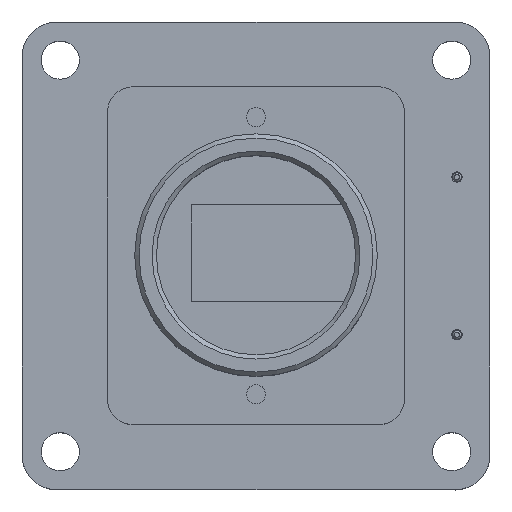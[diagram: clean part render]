
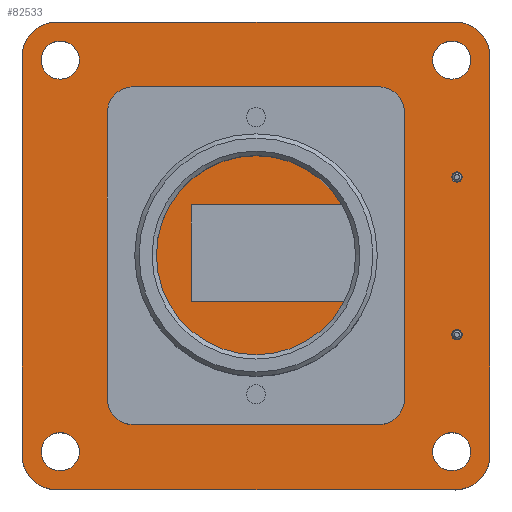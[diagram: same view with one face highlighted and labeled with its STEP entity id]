
A CAD part, top view. The second image highlights one B-rep face of the part: STEP entity #82533.
In plain terms, the highlighted planar face has unit normal (0, 0, 1) as drawn and (0, 1, 0) by its records, which use the part's own axes.
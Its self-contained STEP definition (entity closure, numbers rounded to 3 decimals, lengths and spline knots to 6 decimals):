
#6889=LINE('',#132260,#16607);
#6892=LINE('',#132266,#16610);
#6894=LINE('',#132270,#16612);
#6896=LINE('',#132274,#16614);
#6897=LINE('',#132276,#16615);
#6902=LINE('',#132291,#16620);
#6906=LINE('',#132303,#16624);
#6910=LINE('',#132315,#16628);
#16607=VECTOR('',#108251,1.);
#16610=VECTOR('',#108256,1.);
#16612=VECTOR('',#108260,1.);
#16614=VECTOR('',#108264,1.);
#16615=VECTOR('',#108267,1.);
#16620=VECTOR('',#108280,1.);
#16624=VECTOR('',#108292,1.);
#16628=VECTOR('',#108304,1.);
#22431=PLANE('',#90638);
#39983=ORIENTED_EDGE('',*,*,#55817,.F.);
#39984=ORIENTED_EDGE('',*,*,#55818,.F.);
#39985=ORIENTED_EDGE('',*,*,#55819,.F.);
#39986=ORIENTED_EDGE('',*,*,#55820,.F.);
#39987=ORIENTED_EDGE('',*,*,#55805,.T.);
#39988=ORIENTED_EDGE('',*,*,#55783,.T.);
#39989=ORIENTED_EDGE('',*,*,#55787,.T.);
#39990=ORIENTED_EDGE('',*,*,#55790,.T.);
#39991=ORIENTED_EDGE('',*,*,#55793,.T.);
#39992=ORIENTED_EDGE('',*,*,#55796,.T.);
#39993=ORIENTED_EDGE('',*,*,#55799,.T.);
#39994=ORIENTED_EDGE('',*,*,#55802,.T.);
#39995=ORIENTED_EDGE('',*,*,#55821,.F.);
#39996=ORIENTED_EDGE('',*,*,#55822,.F.);
#39997=ORIENTED_EDGE('',*,*,#55780,.F.);
#39998=ORIENTED_EDGE('',*,*,#55782,.F.);
#39999=ORIENTED_EDGE('',*,*,#55775,.F.);
#40000=ORIENTED_EDGE('',*,*,#55778,.F.);
#40001=ORIENTED_EDGE('',*,*,#55823,.F.);
#40002=ORIENTED_EDGE('',*,*,#55824,.F.);
#40003=ORIENTED_EDGE('',*,*,#55825,.F.);
#40004=ORIENTED_EDGE('',*,*,#55826,.F.);
#55775=EDGE_CURVE('',#65050,#65051,#6889,.T.);
#55778=EDGE_CURVE('',#65052,#65050,#6892,.T.);
#55780=EDGE_CURVE('',#65053,#65052,#6894,.T.);
#55782=EDGE_CURVE('',#65051,#65053,#6896,.T.);
#55783=EDGE_CURVE('',#65054,#65055,#6897,.T.);
#55787=EDGE_CURVE('',#65055,#65058,#69207,.T.);
#55790=EDGE_CURVE('',#65058,#65060,#6902,.T.);
#55793=EDGE_CURVE('',#65060,#65062,#69209,.T.);
#55796=EDGE_CURVE('',#65062,#65064,#6906,.T.);
#55799=EDGE_CURVE('',#65064,#65066,#69211,.T.);
#55802=EDGE_CURVE('',#65066,#65068,#6910,.T.);
#55805=EDGE_CURVE('',#65068,#65054,#69213,.T.);
#55817=EDGE_CURVE('',#65080,#65080,#69225,.T.);
#55818=EDGE_CURVE('',#65081,#65081,#69226,.T.);
#55819=EDGE_CURVE('',#65082,#65082,#69227,.T.);
#55820=EDGE_CURVE('',#65083,#65083,#69228,.T.);
#55821=EDGE_CURVE('',#65084,#65084,#69229,.T.);
#55822=EDGE_CURVE('',#65085,#65085,#69230,.T.);
#55823=EDGE_CURVE('',#65086,#65086,#69231,.T.);
#55824=EDGE_CURVE('',#65087,#65087,#69232,.T.);
#55825=EDGE_CURVE('',#65088,#65088,#69233,.T.);
#55826=EDGE_CURVE('',#65089,#65089,#69234,.T.);
#65050=VERTEX_POINT('',#132261);
#65051=VERTEX_POINT('',#132262);
#65052=VERTEX_POINT('',#132267);
#65053=VERTEX_POINT('',#132271);
#65054=VERTEX_POINT('',#132277);
#65055=VERTEX_POINT('',#132278);
#65058=VERTEX_POINT('',#132286);
#65060=VERTEX_POINT('',#132292);
#65062=VERTEX_POINT('',#132298);
#65064=VERTEX_POINT('',#132304);
#65066=VERTEX_POINT('',#132310);
#65068=VERTEX_POINT('',#132316);
#65080=VERTEX_POINT('',#132346);
#65081=VERTEX_POINT('',#132348);
#65082=VERTEX_POINT('',#132350);
#65083=VERTEX_POINT('',#132352);
#65084=VERTEX_POINT('',#132354);
#65085=VERTEX_POINT('',#132356);
#65086=VERTEX_POINT('',#132358);
#65087=VERTEX_POINT('',#132360);
#65088=VERTEX_POINT('',#132362);
#65089=VERTEX_POINT('',#132364);
#69207=CIRCLE('',#90613,0.002);
#69209=CIRCLE('',#90617,0.002);
#69211=CIRCLE('',#90621,0.002);
#69213=CIRCLE('',#90625,0.002);
#69225=CIRCLE('',#90639,0.0011);
#69226=CIRCLE('',#90640,0.0011);
#69227=CIRCLE('',#90641,0.0011);
#69228=CIRCLE('',#90642,0.0011);
#69229=CIRCLE('',#90643,0.0003);
#69230=CIRCLE('',#90644,0.0003);
#69231=CIRCLE('',#90645,0.000525);
#69232=CIRCLE('',#90646,0.000525);
#69233=CIRCLE('',#90647,0.00075);
#69234=CIRCLE('',#90648,0.00075);
#72812=EDGE_LOOP('',(#39983));
#72813=EDGE_LOOP('',(#39984));
#72814=EDGE_LOOP('',(#39985));
#72815=EDGE_LOOP('',(#39986));
#72816=EDGE_LOOP('',(#39987,#39988,#39989,#39990,#39991,#39992,#39993,#39994));
#72817=EDGE_LOOP('',(#39995));
#72818=EDGE_LOOP('',(#39996));
#72819=EDGE_LOOP('',(#39997,#39998,#39999,#40000));
#72820=EDGE_LOOP('',(#40001));
#72821=EDGE_LOOP('',(#40002));
#72822=EDGE_LOOP('',(#40003));
#72823=EDGE_LOOP('',(#40004));
#77203=FACE_BOUND('',#72812,.T.);
#77204=FACE_BOUND('',#72813,.T.);
#77205=FACE_BOUND('',#72814,.T.);
#77206=FACE_BOUND('',#72815,.T.);
#77207=FACE_BOUND('',#72816,.T.);
#77208=FACE_BOUND('',#72817,.T.);
#77209=FACE_BOUND('',#72818,.T.);
#77210=FACE_BOUND('',#72819,.T.);
#77211=FACE_BOUND('',#72820,.T.);
#77212=FACE_BOUND('',#72821,.T.);
#77213=FACE_BOUND('',#72822,.T.);
#77214=FACE_BOUND('',#72823,.T.);
#82533=ADVANCED_FACE('',(#77203,#77204,#77205,#77206,#77207,#77208,#77209,
#77210,#77211,#77212,#77213,#77214),#22431,.T.);
#90613=AXIS2_PLACEMENT_3D('',#132285,#108273,#108274);
#90617=AXIS2_PLACEMENT_3D('',#132297,#108285,#108286);
#90621=AXIS2_PLACEMENT_3D('',#132309,#108297,#108298);
#90625=AXIS2_PLACEMENT_3D('',#132321,#108309,#108310);
#90638=AXIS2_PLACEMENT_3D('',#132344,#108335,#108336);
#90639=AXIS2_PLACEMENT_3D('',#132345,#108337,#108338);
#90640=AXIS2_PLACEMENT_3D('',#132347,#108339,#108340);
#90641=AXIS2_PLACEMENT_3D('',#132349,#108341,#108342);
#90642=AXIS2_PLACEMENT_3D('',#132351,#108343,#108344);
#90643=AXIS2_PLACEMENT_3D('',#132353,#108345,#108346);
#90644=AXIS2_PLACEMENT_3D('',#132355,#108347,#108348);
#90645=AXIS2_PLACEMENT_3D('',#132357,#108349,#108350);
#90646=AXIS2_PLACEMENT_3D('',#132359,#108351,#108352);
#90647=AXIS2_PLACEMENT_3D('',#132361,#108353,#108354);
#90648=AXIS2_PLACEMENT_3D('',#132363,#108355,#108356);
#108251=DIRECTION('',(-1.,0.,0.));
#108256=DIRECTION('',(0.,0.,-1.));
#108260=DIRECTION('',(1.,0.,0.));
#108264=DIRECTION('',(0.,0.,1.));
#108267=DIRECTION('',(0.,0.,1.));
#108273=DIRECTION('',(0.,1.,0.));
#108274=DIRECTION('',(1.,0.,0.));
#108280=DIRECTION('',(1.,0.,0.));
#108285=DIRECTION('',(0.,1.,0.));
#108286=DIRECTION('',(1.,0.,0.));
#108292=DIRECTION('',(0.,0.,-1.));
#108297=DIRECTION('',(0.,1.,0.));
#108298=DIRECTION('',(1.,0.,0.));
#108304=DIRECTION('',(-1.,0.,0.));
#108309=DIRECTION('',(0.,1.,0.));
#108310=DIRECTION('',(1.,0.,0.));
#108335=DIRECTION('',(0.,1.,0.));
#108336=DIRECTION('',(1.,0.,0.));
#108337=DIRECTION('',(0.,1.,0.));
#108338=DIRECTION('',(1.,0.,0.));
#108339=DIRECTION('',(0.,1.,0.));
#108340=DIRECTION('',(1.,0.,0.));
#108341=DIRECTION('',(0.,1.,0.));
#108342=DIRECTION('',(1.,0.,0.));
#108343=DIRECTION('',(0.,1.,0.));
#108344=DIRECTION('',(1.,0.,0.));
#108345=DIRECTION('',(0.,1.,0.));
#108346=DIRECTION('',(1.,0.,0.));
#108347=DIRECTION('',(0.,1.,0.));
#108348=DIRECTION('',(1.,0.,0.));
#108349=DIRECTION('',(0.,1.,0.));
#108350=DIRECTION('',(1.,0.,0.));
#108351=DIRECTION('',(0.,1.,0.));
#108352=DIRECTION('',(1.,0.,0.));
#108353=DIRECTION('',(0.,1.,0.));
#108354=DIRECTION('',(1.,0.,0.));
#108355=DIRECTION('',(0.,1.,0.));
#108356=DIRECTION('',(1.,0.,0.));
#132260=CARTESIAN_POINT('',(-0.004162,0.0286,-0.003606));
#132261=CARTESIAN_POINT('',(0.005833,0.0286,-0.003606));
#132262=CARTESIAN_POINT('',(-0.004162,0.0286,-0.003606));
#132266=CARTESIAN_POINT('',(0.005833,0.0286,-0.003606));
#132267=CARTESIAN_POINT('',(0.005833,0.0286,0.00199));
#132270=CARTESIAN_POINT('',(-0.004162,0.0286,0.00199));
#132271=CARTESIAN_POINT('',(-0.004162,0.0286,0.00199));
#132274=CARTESIAN_POINT('',(-0.004162,0.0286,-0.003606));
#132276=CARTESIAN_POINT('',(-0.013935,0.0286,0.01084));
#132277=CARTESIAN_POINT('',(-0.013935,0.0286,-0.01216));
#132278=CARTESIAN_POINT('',(-0.013935,0.0286,0.01084));
#132285=CARTESIAN_POINT('',(-0.011935,0.0286,0.01084));
#132286=CARTESIAN_POINT('',(-0.011935,0.0286,0.01284));
#132291=CARTESIAN_POINT('',(0.011065,0.0286,0.01284));
#132292=CARTESIAN_POINT('',(0.011065,0.0286,0.01284));
#132297=CARTESIAN_POINT('',(0.011065,0.0286,0.01084));
#132298=CARTESIAN_POINT('',(0.013065,0.0286,0.01084));
#132303=CARTESIAN_POINT('',(0.013065,0.0286,-0.01216));
#132304=CARTESIAN_POINT('',(0.013065,0.0286,-0.01216));
#132309=CARTESIAN_POINT('',(0.011065,0.0286,-0.01216));
#132310=CARTESIAN_POINT('',(0.011065,0.0286,-0.01416));
#132315=CARTESIAN_POINT('',(-0.011935,0.0286,-0.01416));
#132316=CARTESIAN_POINT('',(-0.011935,0.0286,-0.01416));
#132321=CARTESIAN_POINT('',(-0.011935,0.0286,-0.01216));
#132344=CARTESIAN_POINT('',(-0.011935,0.0286,-0.01216));
#132345=CARTESIAN_POINT('',(0.010865,0.0286,-0.01196));
#132346=CARTESIAN_POINT('',(0.011965,0.0286,-0.01196));
#132347=CARTESIAN_POINT('',(-0.011735,0.0286,-0.01196));
#132348=CARTESIAN_POINT('',(-0.010635,0.0286,-0.01196));
#132349=CARTESIAN_POINT('',(-0.011735,0.0286,0.01064));
#132350=CARTESIAN_POINT('',(-0.010635,0.0286,0.01064));
#132351=CARTESIAN_POINT('',(0.010865,0.0286,0.01064));
#132352=CARTESIAN_POINT('',(0.011965,0.0286,0.01064));
#132353=CARTESIAN_POINT('',(0.011165,0.0286,-0.00521));
#132354=CARTESIAN_POINT('',(0.011465,0.0286,-0.00521));
#132355=CARTESIAN_POINT('',(0.011165,0.0286,0.00389));
#132356=CARTESIAN_POINT('',(0.011465,0.0286,0.00389));
#132357=CARTESIAN_POINT('',(0.003315,0.0286,0.006195));
#132358=CARTESIAN_POINT('',(0.00384,0.0286,0.006195));
#132359=CARTESIAN_POINT('',(-0.002935,0.0286,-0.007565));
#132360=CARTESIAN_POINT('',(-0.00241,0.0286,-0.007565));
#132361=CARTESIAN_POINT('',(-0.000435,0.0286,0.00734));
#132362=CARTESIAN_POINT('',(0.000315,0.0286,0.00734));
#132363=CARTESIAN_POINT('',(-0.000435,0.0286,-0.00866));
#132364=CARTESIAN_POINT('',(0.000315,0.0286,-0.00866));
